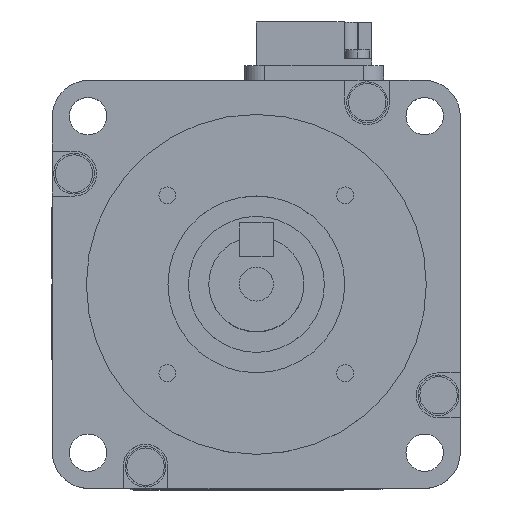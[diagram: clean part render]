
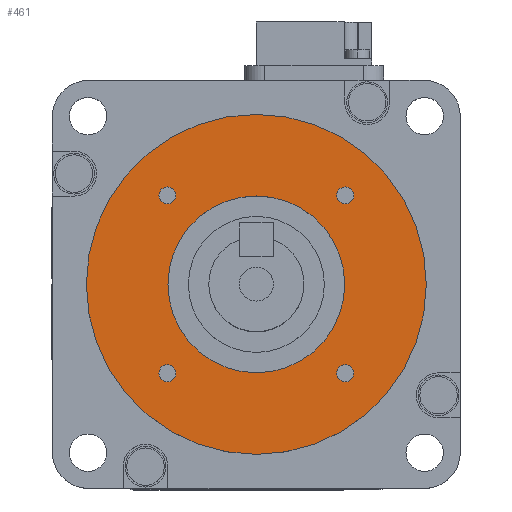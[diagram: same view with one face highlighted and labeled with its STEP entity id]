
A CAD part, top view. The second image highlights one B-rep face of the part: STEP entity #461.
In plain terms, the highlighted planar face has unit normal (0, 0, 1).
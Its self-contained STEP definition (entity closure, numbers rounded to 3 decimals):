
#299 = EDGE_CURVE ( 'NONE', #5083, #5080, #6010, .T. ) ;
#300 = ORIENTED_EDGE ( 'NONE', *, *, #299, .F. ) ;
#461 = ADVANCED_FACE ( 'NONE', ( #6312, #6311, #6310, #6309, #6308, #6307 ), #6306, .T. ) ;
#476 = EDGE_LOOP ( 'NONE', ( #525, #522 ) ) ;
#481 = ORIENTED_EDGE ( 'NONE', *, *, #5188, .F. ) ;
#482 = ORIENTED_EDGE ( 'NONE', *, *, #5170, .F. ) ;
#485 = ORIENTED_EDGE ( 'NONE', *, *, #487, .F. ) ;
#486 = EDGE_LOOP ( 'NONE', ( #485, #481 ) ) ;
#487 = EDGE_CURVE ( 'NONE', #5189, #5186, #6333, .T. ) ;
#491 = EDGE_LOOP ( 'NONE', ( #300, #509 ) ) ;
#495 = ORIENTED_EDGE ( 'NONE', *, *, #5013, .F. ) ;
#498 = EDGE_LOOP ( 'NONE', ( #1847, #482 ) ) ;
#503 = ORIENTED_EDGE ( 'NONE', *, *, #507, .F. ) ;
#505 = EDGE_LOOP ( 'NONE', ( #503, #495 ) ) ;
#507 = EDGE_CURVE ( 'NONE', #5014, #5011, #6369, .T. ) ;
#509 = ORIENTED_EDGE ( 'NONE', *, *, #5082, .F. ) ;
#516 = ORIENTED_EDGE ( 'NONE', *, *, #5545, .F. ) ;
#518 = EDGE_CURVE ( 'NONE', #5547, #5546, #6423, .T. ) ;
#519 = ORIENTED_EDGE ( 'NONE', *, *, #518, .F. ) ;
#521 = EDGE_LOOP ( 'NONE', ( #516, #519 ) ) ;
#522 = ORIENTED_EDGE ( 'NONE', *, *, #5443, .T. ) ;
#525 = ORIENTED_EDGE ( 'NONE', *, *, #526, .T. ) ;
#526 = EDGE_CURVE ( 'NONE', #5533, #5444, #6415, .T. ) ;
#1795 = EDGE_CURVE ( 'NONE', #5175, #5258, #8488, .T. ) ;
#1847 = ORIENTED_EDGE ( 'NONE', *, *, #1795, .F. ) ;
#5011 = VERTEX_POINT ( 'NONE', #13747 ) ;
#5013 = EDGE_CURVE ( 'NONE', #5011, #5014, #13746, .T. ) ;
#5014 = VERTEX_POINT ( 'NONE', #13741 ) ;
#5080 = VERTEX_POINT ( 'NONE', #13855 ) ;
#5082 = EDGE_CURVE ( 'NONE', #5080, #5083, #13854, .T. ) ;
#5083 = VERTEX_POINT ( 'NONE', #13849 ) ;
#5170 = EDGE_CURVE ( 'NONE', #5258, #5175, #14052, .T. ) ;
#5175 = VERTEX_POINT ( 'NONE', #14039 ) ;
#5186 = VERTEX_POINT ( 'NONE', #14080 ) ;
#5188 = EDGE_CURVE ( 'NONE', #5186, #5189, #14079, .T. ) ;
#5189 = VERTEX_POINT ( 'NONE', #14074 ) ;
#5258 = VERTEX_POINT ( 'NONE', #14195 ) ;
#5443 = EDGE_CURVE ( 'NONE', #5444, #5533, #14556, .T. ) ;
#5444 = VERTEX_POINT ( 'NONE', #14547 ) ;
#5533 = VERTEX_POINT ( 'NONE', #14712 ) ;
#5545 = EDGE_CURVE ( 'NONE', #5546, #5547, #14752, .T. ) ;
#5546 = VERTEX_POINT ( 'NONE', #14748 ) ;
#5547 = VERTEX_POINT ( 'NONE', #14747 ) ;
#5559 = DIRECTION ( 'NONE',  ( 1., 0., 0. ) ) ;
#6008 = CARTESIAN_POINT ( 'NONE',  ( 13.081, -13.081, 3. ) ) ;
#6009 = AXIS2_PLACEMENT_3D ( 'NONE', #6008, #6070, #6069 ) ;
#6010 = CIRCLE ( 'NONE', #6009, 1.25 ) ;
#6069 = DIRECTION ( 'NONE',  ( 0., -1., 0. ) ) ;
#6070 = DIRECTION ( 'NONE',  ( 0., 0., 1. ) ) ;
#6302 = DIRECTION ( 'NONE',  ( 1., 0., 0. ) ) ;
#6303 = DIRECTION ( 'NONE',  ( 0., 0., 1. ) ) ;
#6304 = CARTESIAN_POINT ( 'NONE',  ( 0., 25., 3. ) ) ;
#6305 = AXIS2_PLACEMENT_3D ( 'NONE', #6304, #6303, #6302 ) ;
#6306 = PLANE ( 'NONE',  #6305 ) ;
#6307 = FACE_OUTER_BOUND ( 'NONE', #521, .T. ) ;
#6308 = FACE_BOUND ( 'NONE', #476, .T. ) ;
#6309 = FACE_BOUND ( 'NONE', #486, .T. ) ;
#6310 = FACE_BOUND ( 'NONE', #498, .T. ) ;
#6311 = FACE_BOUND ( 'NONE', #505, .T. ) ;
#6312 = FACE_BOUND ( 'NONE', #491, .T. ) ;
#6330 = DIRECTION ( 'NONE',  ( 0., 0., 1. ) ) ;
#6331 = CARTESIAN_POINT ( 'NONE',  ( 13.081, 13.081, 3. ) ) ;
#6332 = AXIS2_PLACEMENT_3D ( 'NONE', #6331, #6330, #5559 ) ;
#6333 = CIRCLE ( 'NONE', #6332, 1.25 ) ;
#6365 = DIRECTION ( 'NONE',  ( -1., 0., 0. ) ) ;
#6366 = DIRECTION ( 'NONE',  ( 0., 0., 1. ) ) ;
#6367 = CARTESIAN_POINT ( 'NONE',  ( -13.081, -13.081, 3. ) ) ;
#6368 = AXIS2_PLACEMENT_3D ( 'NONE', #6367, #6366, #6365 ) ;
#6369 = CIRCLE ( 'NONE', #6368, 1.25 ) ;
#6411 = DIRECTION ( 'NONE',  ( -1., 0., 0. ) ) ;
#6412 = DIRECTION ( 'NONE',  ( 0., 0., -1. ) ) ;
#6413 = CARTESIAN_POINT ( 'NONE',  ( 0., 0., 3. ) ) ;
#6414 = AXIS2_PLACEMENT_3D ( 'NONE', #6413, #6412, #6411 ) ;
#6415 = CIRCLE ( 'NONE', #6414, 13. ) ;
#6416 = DIRECTION ( 'NONE',  ( -1., 0., 0. ) ) ;
#6417 = DIRECTION ( 'NONE',  ( 0., 0., -1. ) ) ;
#6418 = CARTESIAN_POINT ( 'NONE',  ( 0., 0., 3. ) ) ;
#6419 = AXIS2_PLACEMENT_3D ( 'NONE', #6418, #6417, #6416 ) ;
#6423 = CIRCLE ( 'NONE', #6419, 25. ) ;
#8484 = DIRECTION ( 'NONE',  ( 0., 1., 0. ) ) ;
#8485 = DIRECTION ( 'NONE',  ( 0., 0., 1. ) ) ;
#8486 = CARTESIAN_POINT ( 'NONE',  ( -13.081, 13.081, 3. ) ) ;
#8487 = AXIS2_PLACEMENT_3D ( 'NONE', #8486, #8485, #8484 ) ;
#8488 = CIRCLE ( 'NONE', #8487, 1.25 ) ;
#13741 = CARTESIAN_POINT ( 'NONE',  ( -11.831, -13.081, 3. ) ) ;
#13742 = DIRECTION ( 'NONE',  ( -1., 0., 0. ) ) ;
#13743 = DIRECTION ( 'NONE',  ( 0., 0., 1. ) ) ;
#13744 = CARTESIAN_POINT ( 'NONE',  ( -13.081, -13.081, 3. ) ) ;
#13745 = AXIS2_PLACEMENT_3D ( 'NONE', #13744, #13743, #13742 ) ;
#13746 = CIRCLE ( 'NONE', #13745, 1.25 ) ;
#13747 = CARTESIAN_POINT ( 'NONE',  ( -14.331, -13.081, 3. ) ) ;
#13849 = CARTESIAN_POINT ( 'NONE',  ( 14.331, -13.081, 3. ) ) ;
#13850 = DIRECTION ( 'NONE',  ( 0., -1., 0. ) ) ;
#13851 = DIRECTION ( 'NONE',  ( 0., 0., 1. ) ) ;
#13852 = CARTESIAN_POINT ( 'NONE',  ( 13.081, -13.081, 3. ) ) ;
#13853 = AXIS2_PLACEMENT_3D ( 'NONE', #13852, #13851, #13850 ) ;
#13854 = CIRCLE ( 'NONE', #13853, 1.25 ) ;
#13855 = CARTESIAN_POINT ( 'NONE',  ( 11.831, -13.081, 3. ) ) ;
#14039 = CARTESIAN_POINT ( 'NONE',  ( -11.831, 13.081, 3. ) ) ;
#14048 = DIRECTION ( 'NONE',  ( 0., 1., 0. ) ) ;
#14049 = DIRECTION ( 'NONE',  ( 0., 0., 1. ) ) ;
#14050 = CARTESIAN_POINT ( 'NONE',  ( -13.081, 13.081, 3. ) ) ;
#14051 = AXIS2_PLACEMENT_3D ( 'NONE', #14050, #14049, #14048 ) ;
#14052 = CIRCLE ( 'NONE', #14051, 1.25 ) ;
#14074 = CARTESIAN_POINT ( 'NONE',  ( 14.331, 13.081, 3. ) ) ;
#14075 = DIRECTION ( 'NONE',  ( 1., 0., 0. ) ) ;
#14076 = DIRECTION ( 'NONE',  ( 0., 0., 1. ) ) ;
#14077 = CARTESIAN_POINT ( 'NONE',  ( 13.081, 13.081, 3. ) ) ;
#14078 = AXIS2_PLACEMENT_3D ( 'NONE', #14077, #14076, #14075 ) ;
#14079 = CIRCLE ( 'NONE', #14078, 1.25 ) ;
#14080 = CARTESIAN_POINT ( 'NONE',  ( 11.831, 13.081, 3. ) ) ;
#14195 = CARTESIAN_POINT ( 'NONE',  ( -14.331, 13.081, 3. ) ) ;
#14547 = CARTESIAN_POINT ( 'NONE',  ( 13., 0., 3. ) ) ;
#14548 = DIRECTION ( 'NONE',  ( -1., 0., 0. ) ) ;
#14549 = DIRECTION ( 'NONE',  ( 0., 0., -1. ) ) ;
#14550 = CARTESIAN_POINT ( 'NONE',  ( 0., 0., 3. ) ) ;
#14551 = AXIS2_PLACEMENT_3D ( 'NONE', #14550, #14549, #14548 ) ;
#14556 = CIRCLE ( 'NONE', #14551, 13. ) ;
#14712 = CARTESIAN_POINT ( 'NONE',  ( -13., 0., 3. ) ) ;
#14747 = CARTESIAN_POINT ( 'NONE',  ( 25., 0., 3. ) ) ;
#14748 = CARTESIAN_POINT ( 'NONE',  ( -25., 0., 3. ) ) ;
#14749 = DIRECTION ( 'NONE',  ( -1., 0., 0. ) ) ;
#14750 = DIRECTION ( 'NONE',  ( 0., 0., -1. ) ) ;
#14751 = AXIS2_PLACEMENT_3D ( 'NONE', #14758, #14750, #14749 ) ;
#14752 = CIRCLE ( 'NONE', #14751, 25. ) ;
#14758 = CARTESIAN_POINT ( 'NONE',  ( 0., 0., 3. ) ) ;
